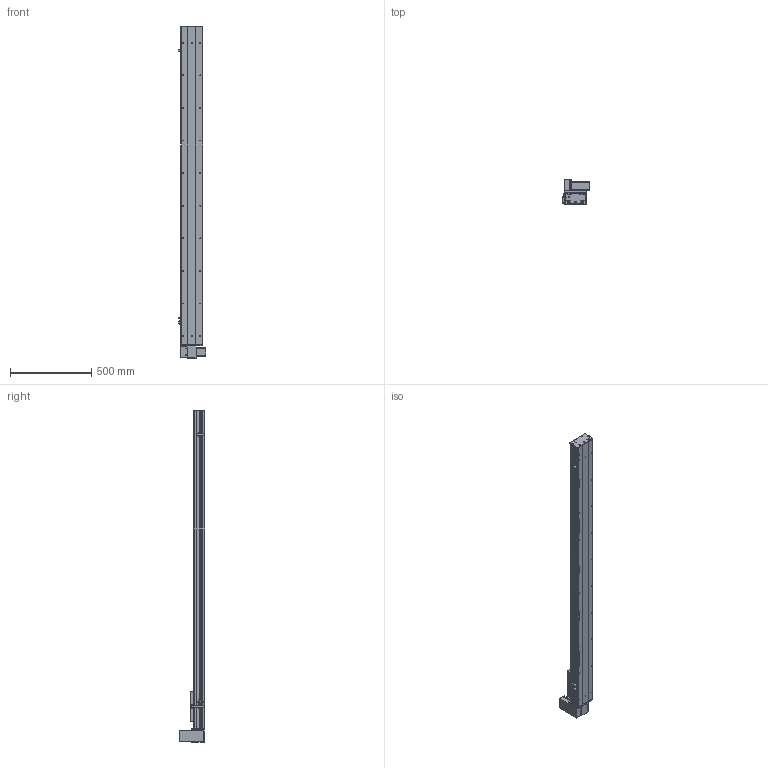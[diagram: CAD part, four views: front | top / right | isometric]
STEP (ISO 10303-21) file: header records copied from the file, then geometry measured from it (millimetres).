
FILE_DESCRIPTION (( 'STEP AP203' ), '1' );
FILE_NAME ('Y135CB-D90-S1650-UR-P400W.STEP', '2020-02-18T04:19:24', ( '微软用户' ), ( '微软中国' ), 'SwSTEP 2.0', 'SolidWorks 2017', '' );
FILE_SCHEMA (( 'CONFIG_CONTROL_DESIGN' ));
Length unit declared in the file: millimetre
Products named in the file (18): 35CB---喘謫眊楊擘啣; Y135C-陔俋离換覜結え-; 0B-埴倛裔啣; 5C--俋欶; 0B-源倛裔啣; C-雄赽釱--; 0B-萇儂楊擘啣; Y10B--々湍喘謫眊--666; san松下电机400不带刹车----; Y10B-耜蚾蟀諉啣----; 5CB --掛极耜裔啣-; 00B-俋欶BM--; C-詩湍揤踡え-陔; Y135CB-耜裔; Y135CB-D90-S1650-UR-P400W; 135CB--詩湍-CE; 135CB---遴掛极.-; Y100-135俋离換覜ん--
Assembly tree (21 placements, depth 2):
  Y135CB-D90-S1650-UR-P400W
    Y135CB-耜裔
    135CB---遴掛极.-
    35CB---喘謫眊楊擘啣
    0B-埴倛裔啣
    0B-源倛裔啣
    0B-萇儂楊擘啣
    san松下电机400不带刹车----
    5CB --掛极耜裔啣-  x2
    C-詩湍揤踡え-陔  x2
    135CB--詩湍-CE
    Y100-135俋离換覜ん--  x3
    Y135C-陔俋离換覜結え-
    5C--俋欶
    C-雄赽釱--
    Y10B--々湍喘謫眊--666
    Y10B-耜蚾蟀諉啣----
    00B-俋欶BM--
Bounding box: 167.5 x 158.7 x 2038 mm (x, y, z)
Volume: 6074501.9 mm3; surface area: 2393833.5 mm2
Topology: 21 solids, 21 shells, 957 faces, 2581 edges, 1710 vertices
Faces by surface type: cylinder 485, plane 456, cone 16
Entity records: 29955 total; most frequent: DIRECTION 4977, CARTESIAN_POINT 4944, ORIENTED_EDGE 4638, EDGE_CURVE 2319, AXIS2_PLACEMENT_3D 1819, VERTEX_POINT 1538, LINE 1339, VECTOR 1339
